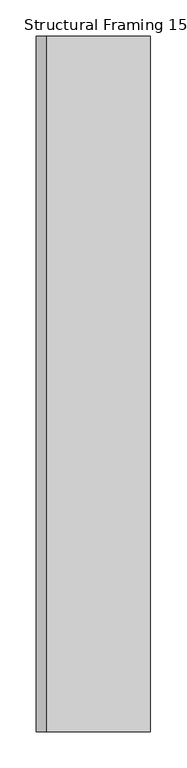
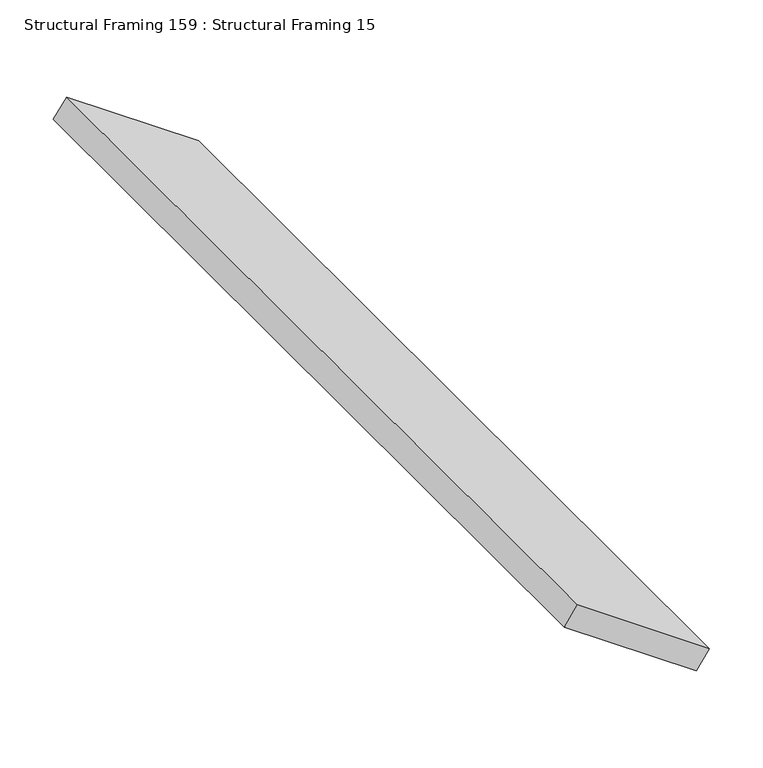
"""IFC4 building model written with IfcOpenShell, lengths in millimetres: beam geometry, Structural Framing 159 : Structural Framing 15."""

from ifc_helpers import new_model, si_unit, frame, origin, place, context, project, spatial, polyline, outline, extrude, source, transform, mapped, element, save


def structural_framing_159_structural_framing_15_e730e61d(model_context):
    return source(origin(), model_context, "Body", "SweptSolid", [
        extrude(outline(polyline([(0.0, -174.3446795), (0.0, 0.0), (958.4556079, 0.0), (958.4556079, -174.3446795), (0.0, -174.3446795)])), frame((1349.5937079, 3925.5508021, 2700.0), z_axis=(0.5735764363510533, 0.0, 0.8191520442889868), x_axis=(0.0, -1.0, 0.0)), (0.0, 0.0, 1.0), 25.0),
    ])


if __name__ == "__main__":
    model = new_model("IFC4")
    model_context = context("Model", 3, world=origin())
    ifc_project = project(units=[si_unit("LENGTHUNIT", "METRE", prefix="MILLI")], contexts=[model_context])
    site = spatial("IfcSite", under=ifc_project)
    building = spatial("IfcBuilding", under=site)
    placement = place(None, origin())
    structural_framing_159_structural_framing_15_shape = structural_framing_159_structural_framing_15_e730e61d(model_context)
    element("IfcBeam", 1, ObjectType="Structural Framing 159 : Structural Framing 15", at=placement, inside=building, context=model_context, shape_type="MappedRepresentation", body=[
        mapped(structural_framing_159_structural_framing_15_shape, transform((0.0, 0.0, 0.0), x_axis=(1.0, 0.0, 0.0), y_axis=(0.0, 1.0, 0.0), z_axis=(0.0, 0.0, 1.0))),
    ])
    save(model, "model.ifc")
